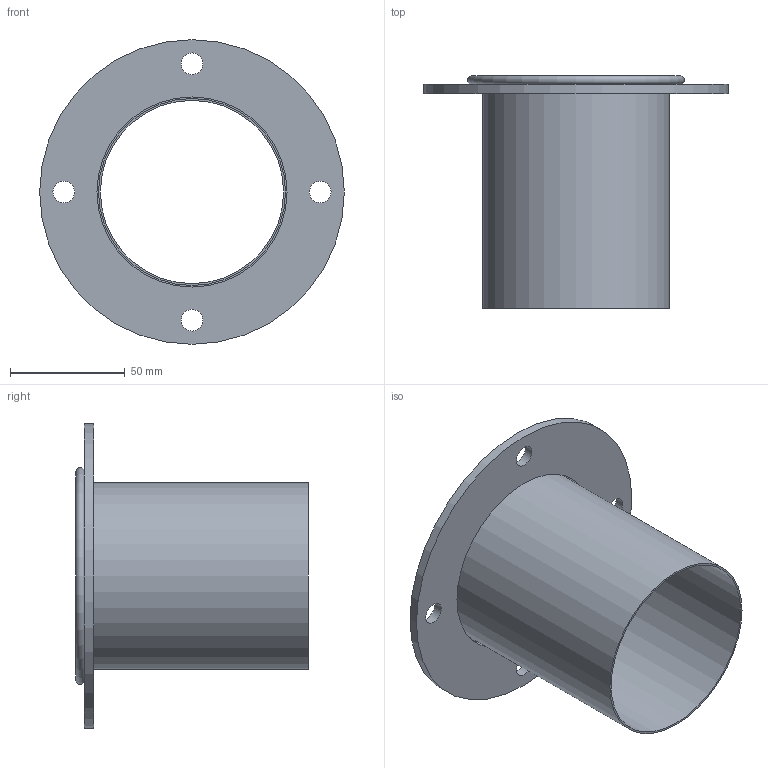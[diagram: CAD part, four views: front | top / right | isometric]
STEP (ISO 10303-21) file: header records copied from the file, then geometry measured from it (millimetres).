
FILE_DESCRIPTION(/* description */ (''),/* implementation_level */ '2;1');
FILE_NAME(/* name */ 'METU_AA118-41B_80_L100.stp',/* time_stamp */ '2018-10-10T11:29:09+02:00',/* author */ (''),/* organization */ (''),/* preprocessor_version */ 'ST-DEVELOPER v11',/* originating_system */ 'SIEMENS UGS NX 6.0',/* authorisation */ '');
FILE_SCHEMA (('CONFIG_CONTROL_DESIGN'));
Length unit declared in the file: millimetre
Products named in the file (1): garsCF17ddsc
Bounding box: 133 x 101.5 x 133 mm (x, y, z)
Volume: 59752.3 mm3; surface area: 81781.4 mm2
Topology: 3 solids, 3 shells, 23 faces, 47 edges, 33 vertices
Faces by surface type: cylinder 12, plane 9, torus 2
Full cylindrical faces by diameter (mm): 9.5 x4, 80 x2, 81.6 x2, 83 x1, 91.6 x2, 133 x1
Entity records: 614 total; most frequent: DIRECTION 102, CARTESIAN_POINT 78, FACE_BOUND 54, EDGE_LOOP 54, ORIENTED_EDGE 54, AXIS2_PLACEMENT_3D 51, VERTEX_POINT 27, EDGE_CURVE 27
